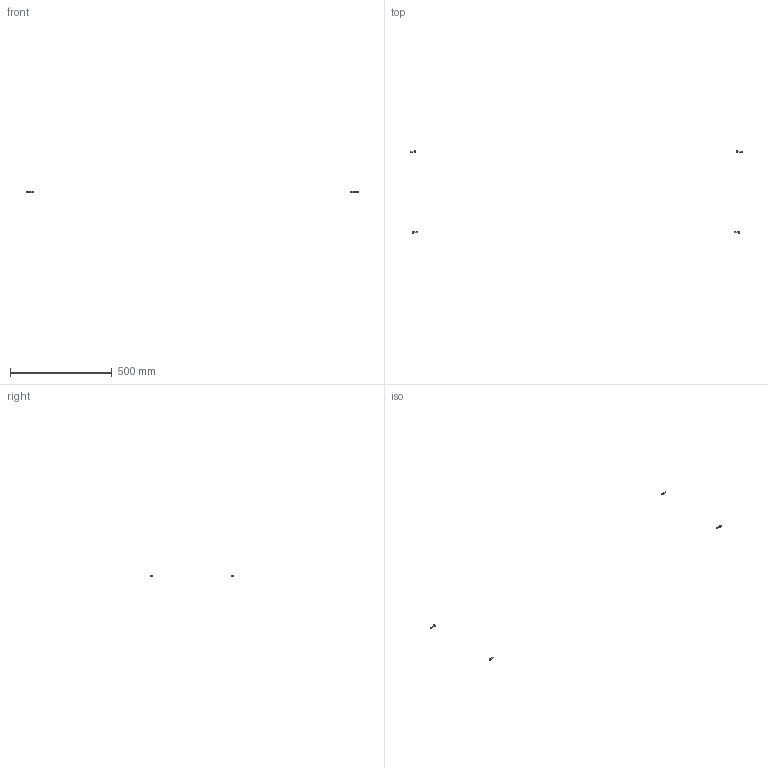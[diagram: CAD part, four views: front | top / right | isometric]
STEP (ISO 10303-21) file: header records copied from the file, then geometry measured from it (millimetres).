
FILE_DESCRIPTION(/* description */ (''),/* implementation_level */ '2;1');
FILE_NAME(/* name */ 'FR3FF2~1',/* time_stamp */ '2014-02-14T19:35:00+01:00',/* author */ (''),/* organization */ (''),/* preprocessor_version */ 'ST-DEVELOPER v14',/* originating_system */ '',/* authorisation */ '');
FILE_SCHEMA (('AUTOMOTIVE_DESIGN'));
Length unit declared in the file: millimetre
Products named in the file (2): Document; screw DIN912-like, M5x20
Assembly tree (2 placements, depth 2):
  Document
    screw DIN912-like, M5x20  x2
Bounding box: 1630 x 404.5 x 8.49 mm (x, y, z)
Volume: 2546.5 mm3; surface area: 2334.9 mm2
Topology: 4 solids, 4 shells, 100 faces, 224 edges, 132 vertices
Faces by surface type: plane 60, bspline 40
Entity records: 4125 total; most frequent: CARTESIAN_POINT 1889, B_SPLINE_CURVE_WITH_KNOTS 378, ORIENTED_EDGE 324, PCURVE 324, DEFINITIONAL_REPRESENTATION 324, SURFACE_CURVE 162, EDGE_CURVE 162, VERTEX_POINT 99
